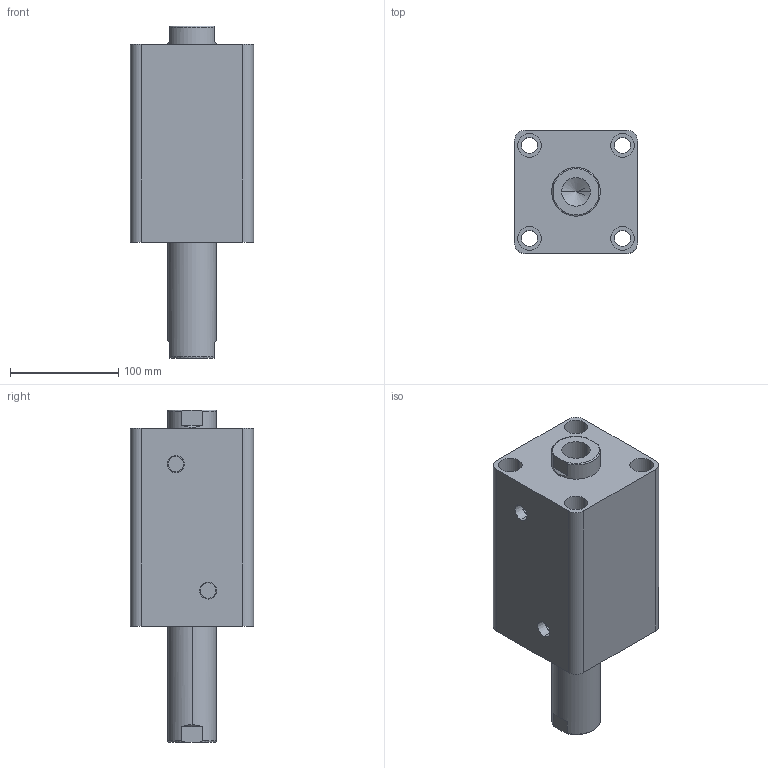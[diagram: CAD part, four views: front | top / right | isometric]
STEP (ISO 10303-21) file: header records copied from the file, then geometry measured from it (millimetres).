
FILE_DESCRIPTION (( 'STEP AP203' ), '1' );
FILE_NAME ('HTB-SW80-90N.STEP', '2019-10-07T10:26:58', ( '微软用户' ), ( '微软中国' ), 'SwSTEP 2.0', 'SolidWorks 2012', '' );
FILE_SCHEMA (( 'CONFIG_CONTROL_DESIGN' ));
Length unit declared in the file: millimetre
Products named in the file (3): HTB-SW80-90N; HTB-SW80-90N活塞杆; HTB-SW80-90掛极
Assembly tree (2 placements, depth 2):
  HTB-SW80-90N
    HTB-SW80-90掛极
    HTB-SW80-90N活塞杆
Bounding box: 114 x 114 x 307 mm (x, y, z)
Volume: 2060690.8 mm3; surface area: 246850.2 mm2
Topology: 2 solids, 2 shells, 100 faces, 228 edges, 146 vertices
Faces by surface type: cylinder 48, plane 32, torus 12, cone 8
Entity records: 3237 total; most frequent: CARTESIAN_POINT 595, DIRECTION 542, ORIENTED_EDGE 448, AXIS2_PLACEMENT_3D 229, EDGE_CURVE 224, VERTEX_POINT 146, EDGE_LOOP 128, CIRCLE 124
